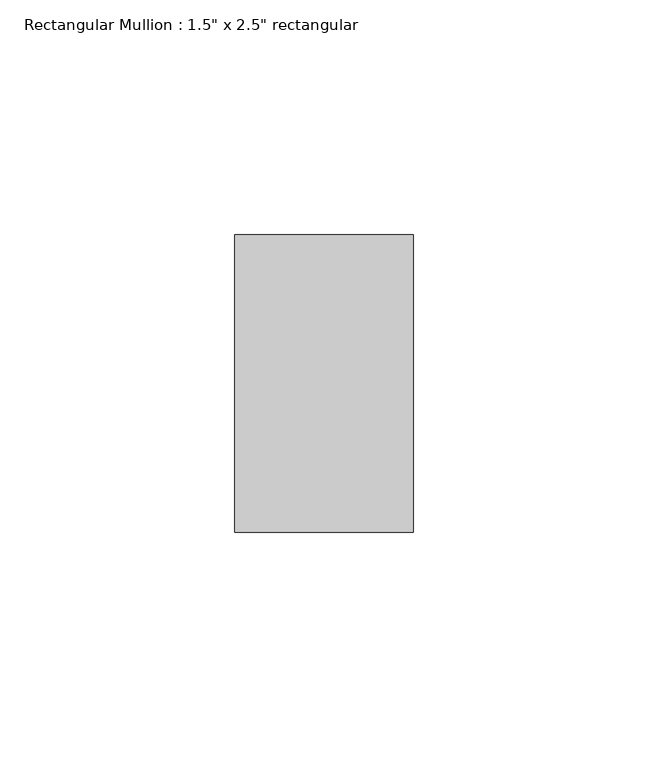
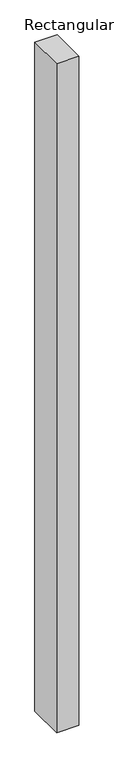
"""IFC4 building model written with IfcOpenShell, lengths in millimetres: member geometry."""

from ifc_helpers import new_model, si_unit, frame, origin, place, context, project, spatial, polyline, outline, extrude, source, transform, mapped, element, save


def member_3bdf2bed(model_context):
    return source(origin(), model_context, "Body", "SweptSolid", [
        extrude(outline(polyline([(0.0, 31.75), (0.0, -31.75), (-38.1, -31.75), (-38.1, 31.75), (0.0, 31.75)])), frame((0.0, 0.0, -1200.3609065), z_axis=(0.0, 0.0, 1.0), x_axis=(1.0, 0.0, 0.0)), (0.0, 0.0, 1.0), 1200.3609065),
    ])


if __name__ == "__main__":
    model = new_model("IFC4")
    model_context = context("Model", 3, world=origin())
    ifc_project = project(units=[si_unit("LENGTHUNIT", "METRE", prefix="MILLI")], contexts=[model_context])
    site = spatial("IfcSite", under=ifc_project)
    building = spatial("IfcBuilding", under=site)
    placement = place(None, origin())
    member_shape = member_3bdf2bed(model_context)
    element("IfcMember", 1, ObjectType="Rectangular Mullion : 1.5\" x 2.5\" rectangular", at=placement, inside=building, context=model_context, shape_type="MappedRepresentation", body=[
        mapped(member_shape, transform((0.0, 0.0, 0.0), x_axis=(1.0, 0.0, 0.0), y_axis=(0.0, 1.0, 0.0), z_axis=(0.0, 0.0, 1.0))),
    ])
    save(model, "model.ifc")
